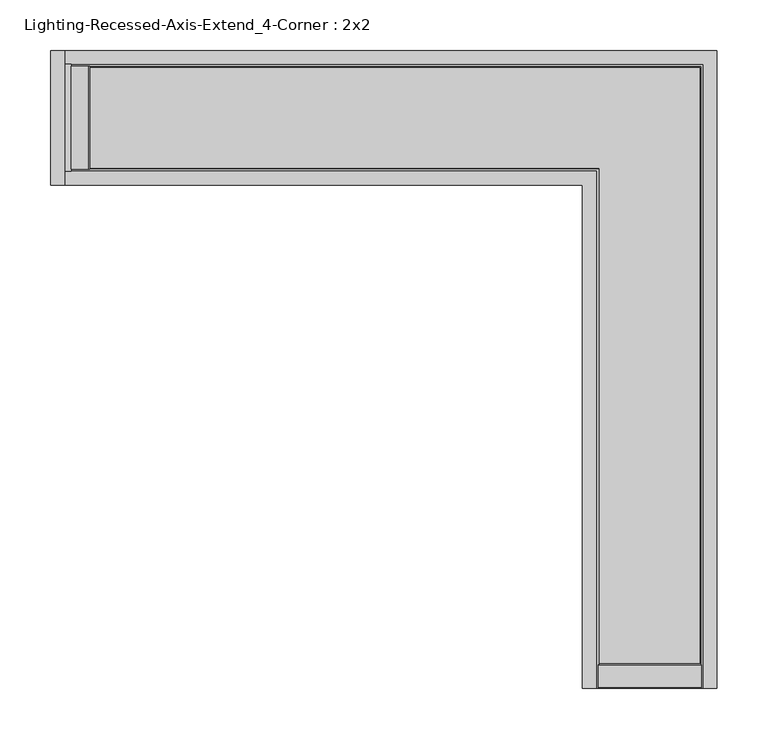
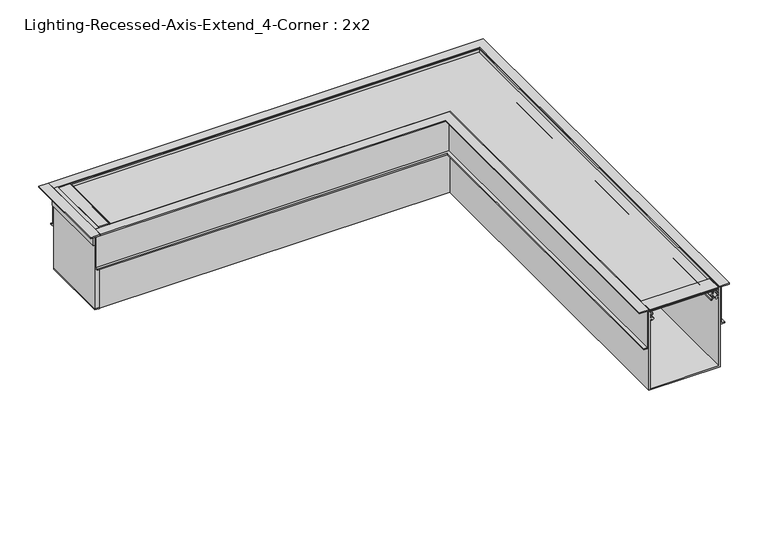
"""IFC4 building model written with IfcOpenShell, lengths in millimetres: light fixture geometry, Lighting-Recessed-Axis-Extend_4-Corner : 2x2."""

from ifc_helpers import new_model, si_unit, frame, origin, place, context, project, spatial, polyline, circle_curve, ellipse_curve, outline, extrude, faceted_brep, source, transform, mapped, element, save
from ifc_brep_helpers import plane_surface, cylinder_surface, revolved_surface, advanced_brep


def lighting_recessed_axis_extend_4_corner_2x2_6065db3e(model_context):
    return source(origin(), model_context, "Body", "SolidModel", [
        faceted_brep([(-578.15099, 52.78501, 0.0), (-578.15099, 52.78501, -23.749), (-580.43699, 52.78501, -23.749), (-580.43699, 52.78501, 0.0), (-580.43699, -52.78501, 0.0), (-580.43699, -52.78501, -23.749), (-578.15099, -52.78501, -23.749), (-578.15099, -52.78501, 0.0), (-578.15099, 66.37401, 0.0), (-578.15099, 66.37401, 1.651), (-578.15099, -66.37401, 1.651), (-578.15099, -66.37401, 0.0), (-591.99399, 66.37401, 0.0), (-591.99399, 66.37401, 1.651), (-591.99399, -66.37401, 1.651), (-591.99399, -66.37401, 0.0)], [[[0, 1, 2, 3]], [[4, 5, 6, 7]], [[1, 0, 8, 9, 10, 11, 7, 6]], [[2, 1, 6, 5]], [[3, 2, 5, 4]], [[8, 12, 13, 9]], [[11, 10, 14, 15]], [[12, 8, 0, 3, 4, 7, 11, 15]], [[13, 12, 15, 14]], [[9, 13, 14, 10]]]),
        extrude(outline(polyline([(0.5492861, -553.48759), (1.651, -554.4121337), (1.651, -571.80099), (-2.9332019, -571.80099), (-2.9332019, -561.13299), (-0.127, -561.13299), (-0.127, -554.28134), (-0.92075, -554.28134), (-0.92075, -553.48759), (0.5492861, -553.48759)])), frame((0.0, -50.75301, 0.0), z_axis=(0.0, 1.0, 0.0), x_axis=(0.0, 0.0, 1.0)), (0.0, 0.0, 1.0), 101.50602),
        extrude(outline(polyline([(-571.80099, 52.78501), (-571.80099, -52.78501), (-578.15099, -52.78501), (-578.15099, 52.78501), (-571.80099, 52.78501)])), frame((0.0, 0.0, -123.1265), z_axis=(0.0, 0.0, 1.0), x_axis=(1.0, 0.0, 0.0)), (0.0, 0.0, 1.0), 124.7775),
        extrude(outline(polyline([(-539.55569, -1.1017139), (-539.55569, -2.57175), (-540.34944, -2.57175), (-540.34944, -1.778), (-546.82009, -1.778), (-546.82009, -4.5842019), (-556.49749, -4.5842019), (-556.49749, -1.778), (-562.96814, -1.778), (-562.96814, -2.57175), (-563.76189, -2.57175), (-563.76189, -1.1017139), (-562.8373463, 0.0), (-540.4802337, 0.0), (-539.55569, -1.1017139)])), frame((-50.75301, 0.0, 0.0), z_axis=(1.0, 0.0, 0.0), x_axis=(0.0, 1.0, 0.0)), (0.0, 0.0, 1.0), 101.50602),
        extrude(outline(polyline([(-1.1017139, -553.48759), (0.0, -554.4121337), (0.0, -571.80099), (-4.5842019, -571.80099), (-4.5842019, -561.13299), (-1.778, -561.13299), (-1.778, -554.28134), (-2.57175, -554.28134), (-2.57175, -553.48759), (-1.1017139, -553.48759)])), frame((0.0, -50.75301, 0.0), z_axis=(0.0, 1.0, 0.0), x_axis=(0.0, 0.0, 1.0)), (0.0, 0.0, 1.0), 101.50602),
        extrude(outline(polyline([(-571.80099, 52.78501), (-571.80099, -52.78501), (-578.15099, -52.78501), (-578.15099, 52.78501), (-571.80099, 52.78501)])), frame((0.0, 0.0, -124.7775), z_axis=(0.0, 0.0, 1.0), x_axis=(1.0, 0.0, 0.0)), (0.0, 0.0, 1.0), 124.7775),
        advanced_brep(
        [(-556.81499, -44.9537362, -4.8895009), (-556.81499, -45.2924281, -11.3521263), (-556.81499, -46.1628914, -17.9580097), (-556.81499, -45.3476056, -19.4557425), (-556.81499, -43.9929166, -20.6551445), (-556.81499, -44.973818, -21.9831631), (-556.81499, -46.5470052, -20.5903092), (-556.81499, -47.8918907, -16.75974), (-556.81499, -46.2564041, -12.7205342), (-556.81499, -46.9204959, -10.8713211), (-556.81499, -46.607002, -4.8895009), (-556.81499, -49.61001, -4.8895009), (-556.81499, -49.61001, -2.9845), (-556.81499, 49.61001, -2.9845), (-556.81499, 49.61001, -4.8895009), (-556.81499, 46.607002, -4.8895009), (-556.81499, 46.9204959, -10.8713211), (-556.81499, 46.2564041, -12.7205342), (-556.81499, 47.8918907, -16.75974), (-556.81499, 46.5470052, -20.5903092), (-556.81499, 44.973818, -21.9831631), (-556.81499, 43.9929166, -20.6551445), (-556.81499, 45.3476056, -19.4557425), (-556.81499, 46.1628914, -17.9580097), (-556.81499, 45.2924281, -11.3521263), (-556.81499, 44.9537362, -4.8895009), (-44.9537362, -556.81499, -4.8895009), (44.9537362, -556.81499, -4.8895009), (45.2924281, -556.81499, -11.3521263), (46.1628914, -556.81499, -17.9580097), (45.3476056, -556.81499, -19.4557425), (43.9929166, -556.81499, -20.6551445), (44.973818, -556.81499, -21.9831631), (46.5470052, -556.81499, -20.5903092), (47.8918907, -556.81499, -16.75974), (46.2564041, -556.81499, -12.7205342), (46.9204959, -556.81499, -10.8713211), (46.607002, -556.81499, -4.8895009), (49.61001, -556.81499, -4.8895009), (49.61001, -556.81499, -2.9845), (-49.61001, -556.81499, -2.9845), (-49.61001, -556.81499, -4.8895009), (-46.607002, -556.81499, -4.8895009), (-46.9204959, -556.81499, -10.8713211), (-46.2564041, -556.81499, -12.7205342), (-47.8918907, -556.81499, -16.75974), (-46.5470052, -556.81499, -20.5903092), (-44.973818, -556.81499, -21.9831631), (-43.9929166, -556.81499, -20.6551445), (-45.3476056, -556.81499, -19.4557425), (-46.1628914, -556.81499, -17.9580097), (-45.2924281, -556.81499, -11.3521263), (-44.9537362, -44.9537362, -4.8895009), (-45.2924281, -45.2924281, -11.3521263), (-46.1628914, -46.1628914, -17.9580097), (-45.3476056, -45.3476056, -19.4557425), (-43.9929166, -43.9929166, -20.6551445), (-44.973818, -44.973818, -21.9831631), (-46.5470052, -46.5470052, -20.5903092), (-47.8918907, -47.8918907, -16.75974), (-46.2564041, -46.2564041, -12.7205342), (-46.9204959, -46.9204959, -10.8713211), (-46.607002, -46.607002, -4.8895009), (-49.61001, -49.61001, -4.8895009), (-49.61001, -49.61001, -2.9845), (49.61001, 49.61001, -2.9845), (44.9537362, 44.9537362, -4.8895009), (49.61001, 49.61001, -4.8895009), (46.607002, 46.607002, -4.8895009), (46.9204959, 46.9204959, -10.8713211), (46.2564041, 46.2564041, -12.7205342), (47.8918907, 47.8918907, -16.75974), (46.5470052, 46.5470052, -20.5903092), (44.973818, 44.973818, -21.9831631), (43.9929166, 43.9929166, -20.6551445), (45.3476056, 45.3476056, -19.4557425), (46.1628914, 46.1628914, -17.9580097), (45.2924281, 45.2924281, -11.3521263)],
        [
            (0, 1),
            (1, 2, circle_curve(frame((-556.81499, -48.03521, -14.351), z_axis=(-1.0, 0.0, 0.0), x_axis=(0.0, 0.6748971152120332, 0.7379118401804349)), 4.064)),
            (2, 3, circle_curve(frame((-556.81499, -42.930354, -17.1691543), z_axis=(1.0, 0.0, 0.0), x_axis=(0.0, -0.9714904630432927, -0.23707863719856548)), 3.3274001)),
            (3, 4, circle_curve(frame((-556.81499, -37.9113277, -12.4214292), z_axis=(1.0, 0.0, 0.0), x_axis=(0.0, -0.7264901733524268, -0.68717685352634)), 10.2362001)),
            (4, 5, circle_curve(frame((-556.81499, -44.4833673, -21.3191538), z_axis=(-1.0, 0.0, 0.0), x_axis=(0.0, 0.5941256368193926, 0.8043722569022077)), 0.8255)),
            (5, 6, circle_curve(frame((-556.81499, -37.9113269, -12.4214283), z_axis=(-1.0, 0.0, 0.0), x_axis=(0.0, -0.594125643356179, -0.8043722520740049)), 11.8872013)),
            (6, 7, circle_curve(frame((-556.81499, -42.930354, -17.1691543), z_axis=(-1.0, 0.0, 0.0), x_axis=(0.0, -0.7264685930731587, -0.6871996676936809)), 4.9784001)),
            (7, 8, circle_curve(frame((-556.81499, -48.03521, -14.351), z_axis=(1.0, 0.0, 0.0), x_axis=(0.0, 0.05939464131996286, -0.9982345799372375)), 2.413)),
            (8, 9, circle_curve(frame((-556.81499, -44.3839769, -11.0042544), z_axis=(-1.0, 0.0, 0.0), x_axis=(0.0, -0.7371760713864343, -0.675700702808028)), 2.54)),
            (9, 10),
            (10, 11),
            (11, 12),
            (12, 13),
            (13, 14),
            (14, 15),
            (15, 16),
            (16, 17, circle_curve(frame((-556.81499, 44.3839769, -11.0042544), z_axis=(-1.0, 0.0, 0.0), x_axis=(0.0, 0.7371760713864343, -0.675700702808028)), 2.54)),
            (17, 18, circle_curve(frame((-556.81499, 48.03521, -14.351), z_axis=(1.0, 0.0, 0.0), x_axis=(0.0, -0.05939464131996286, -0.9982345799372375)), 2.413)),
            (18, 19, circle_curve(frame((-556.81499, 42.930354, -17.1691543), z_axis=(-1.0, 0.0, 0.0), x_axis=(0.0, 0.7264685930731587, -0.6871996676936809)), 4.9784001)),
            (19, 20, circle_curve(frame((-556.81499, 37.9113269, -12.4214283), z_axis=(-1.0, 0.0, 0.0), x_axis=(0.0, 0.594125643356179, -0.8043722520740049)), 11.8872013)),
            (20, 21, circle_curve(frame((-556.81499, 44.4833673, -21.3191538), z_axis=(-1.0, 0.0, 0.0), x_axis=(0.0, -0.5941256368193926, 0.8043722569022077)), 0.8255)),
            (21, 22, circle_curve(frame((-556.81499, 37.9113277, -12.4214292), z_axis=(1.0, 0.0, 0.0), x_axis=(0.0, 0.7264901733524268, -0.68717685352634)), 10.2362001)),
            (22, 23, circle_curve(frame((-556.81499, 42.930354, -17.1691543), z_axis=(1.0, 0.0, 0.0), x_axis=(0.0, 0.9714904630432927, -0.23707863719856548)), 3.3274001)),
            (23, 24, circle_curve(frame((-556.81499, 48.03521, -14.351), z_axis=(-1.0, 0.0, 0.0), x_axis=(0.0, -0.6748971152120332, 0.7379118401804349)), 4.064)),
            (24, 25),
            (25, 0),
            (26, 27),
            (27, 28),
            (28, 29, circle_curve(frame((48.03521, -556.81499, -14.351), z_axis=(0.0, -1.0, 0.0), x_axis=(-0.6748971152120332, 0.0, 0.7379118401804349)), 4.064)),
            (29, 30, circle_curve(frame((42.930354, -556.81499, -17.1691543), z_axis=(0.0, 1.0, 0.0), x_axis=(0.9714904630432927, 0.0, -0.23707863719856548)), 3.3274001)),
            (30, 31, circle_curve(frame((37.9113277, -556.81499, -12.4214292), z_axis=(0.0, 1.0, 0.0), x_axis=(0.7264901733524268, 0.0, -0.68717685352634)), 10.2362001)),
            (31, 32, circle_curve(frame((44.4833673, -556.81499, -21.3191538), z_axis=(0.0, -1.0, 0.0), x_axis=(-0.5941256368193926, 0.0, 0.8043722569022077)), 0.8255)),
            (32, 33, circle_curve(frame((37.9113269, -556.81499, -12.4214283), z_axis=(0.0, -1.0, 0.0), x_axis=(0.594125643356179, 0.0, -0.8043722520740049)), 11.8872013)),
            (33, 34, circle_curve(frame((42.930354, -556.81499, -17.1691543), z_axis=(0.0, -1.0, 0.0), x_axis=(0.7264685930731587, 0.0, -0.6871996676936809)), 4.9784001)),
            (34, 35, circle_curve(frame((48.03521, -556.81499, -14.351), z_axis=(0.0, 1.0, 0.0), x_axis=(-0.05939464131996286, 0.0, -0.9982345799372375)), 2.413)),
            (35, 36, circle_curve(frame((44.3839769, -556.81499, -11.0042544), z_axis=(0.0, -1.0, 0.0), x_axis=(0.7371760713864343, 0.0, -0.675700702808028)), 2.54)),
            (36, 37),
            (37, 38),
            (38, 39),
            (39, 40),
            (40, 41),
            (41, 42),
            (42, 43),
            (43, 44, circle_curve(frame((-44.3839769, -556.81499, -11.0042544), z_axis=(0.0, -1.0, 0.0), x_axis=(-0.7371760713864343, 0.0, -0.675700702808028)), 2.54)),
            (44, 45, circle_curve(frame((-48.03521, -556.81499, -14.351), z_axis=(0.0, 1.0, 0.0), x_axis=(0.05939464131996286, 0.0, -0.9982345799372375)), 2.413)),
            (45, 46, circle_curve(frame((-42.930354, -556.81499, -17.1691543), z_axis=(0.0, -1.0, 0.0), x_axis=(-0.7264685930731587, 0.0, -0.6871996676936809)), 4.9784001)),
            (46, 47, circle_curve(frame((-37.9113269, -556.81499, -12.4214283), z_axis=(0.0, -1.0, 0.0), x_axis=(-0.594125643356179, 0.0, -0.8043722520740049)), 11.8872013)),
            (47, 48, circle_curve(frame((-44.4833673, -556.81499, -21.3191538), z_axis=(0.0, -1.0, 0.0), x_axis=(0.5941256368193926, 0.0, 0.8043722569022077)), 0.8255)),
            (48, 49, circle_curve(frame((-37.9113277, -556.81499, -12.4214292), z_axis=(0.0, 1.0, 0.0), x_axis=(-0.7264901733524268, 0.0, -0.68717685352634)), 10.2362001)),
            (49, 50, circle_curve(frame((-42.930354, -556.81499, -17.1691543), z_axis=(0.0, 1.0, 0.0), x_axis=(-0.9714904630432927, 0.0, -0.23707863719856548)), 3.3274001)),
            (50, 51, circle_curve(frame((-48.03521, -556.81499, -14.351), z_axis=(0.0, -1.0, 0.0), x_axis=(0.6748971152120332, 0.0, 0.7379118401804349)), 4.064)),
            (51, 26),
            (0, 52),
            (52, 53),
            (53, 1),
            (53, 54, ellipse_curve(frame((-48.03521, -48.03521, -14.351), z_axis=(-0.7071067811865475, 0.7071067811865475, 0.0), x_axis=(-0.7071067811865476, -0.7071067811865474, 0.0)), 5.7473639, 4.064)),
            (54, 2),
            (54, 55, ellipse_curve(frame((-42.930354, -42.930354, -17.1691543), z_axis=(0.7071067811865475, -0.7071067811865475, 0.0), x_axis=(0.7071067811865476, 0.7071067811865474, 0.0)), 4.7056543, 3.3274001)),
            (55, 3),
            (55, 56, ellipse_curve(frame((-37.9113277, -37.9113277, -12.4214292), z_axis=(0.7071067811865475, -0.7071067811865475, 0.0), x_axis=(0.7071067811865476, 0.7071067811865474, 0.0)), 14.476173, 10.2362001)),
            (56, 4),
            (56, 57, ellipse_curve(frame((-44.4833673, -44.4833673, -21.3191538), z_axis=(-0.7071067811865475, 0.7071067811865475, 0.0), x_axis=(-0.7071067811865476, -0.7071067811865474, 0.0)), 1.1674333, 0.8255)),
            (57, 5),
            (57, 58, ellipse_curve(frame((-37.9113269, -37.9113269, -12.4214283), z_axis=(-0.7071067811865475, 0.7071067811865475, 0.0), x_axis=(-0.7071067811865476, -0.7071067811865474, 0.0)), 16.8110412, 11.8872013)),
            (58, 6),
            (58, 59, ellipse_curve(frame((-42.930354, -42.930354, -17.1691543), z_axis=(-0.7071067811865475, 0.7071067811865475, 0.0), x_axis=(-0.7071067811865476, -0.7071067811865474, 0.0)), 7.0405209, 4.9784001)),
            (59, 7),
            (59, 60, ellipse_curve(frame((-48.03521, -48.03521, -14.351), z_axis=(0.7071067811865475, -0.7071067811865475, 0.0), x_axis=(0.7071067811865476, 0.7071067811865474, 0.0)), 3.4124973, 2.413)),
            (60, 8),
            (60, 61, ellipse_curve(frame((-44.3839769, -44.3839769, -11.0042544), z_axis=(-0.7071067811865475, 0.7071067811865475, 0.0), x_axis=(-0.7071067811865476, -0.7071067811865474, 0.0)), 3.5921024, 2.54)),
            (61, 9),
            (61, 62),
            (62, 10),
            (62, 42),
            (41, 63),
            (63, 11),
            (63, 64),
            (64, 12),
            (64, 40),
            (39, 65),
            (65, 13),
            (25, 66),
            (66, 27),
            (26, 52),
            (65, 67),
            (67, 14),
            (67, 38),
            (37, 68),
            (68, 15),
            (68, 69),
            (69, 16),
            (69, 70, ellipse_curve(frame((44.3839769, 44.3839769, -11.0042544), z_axis=(-0.7071067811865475, 0.7071067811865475, 0.0), x_axis=(-0.7071067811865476, -0.7071067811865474, 0.0)), 3.5921024, 2.54)),
            (70, 17),
            (70, 71, ellipse_curve(frame((48.03521, 48.03521, -14.351), z_axis=(0.7071067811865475, -0.7071067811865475, 0.0), x_axis=(0.7071067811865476, 0.7071067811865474, 0.0)), 3.4124973, 2.413)),
            (71, 18),
            (71, 72, ellipse_curve(frame((42.930354, 42.930354, -17.1691543), z_axis=(-0.7071067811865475, 0.7071067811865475, 0.0), x_axis=(-0.7071067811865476, -0.7071067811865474, 0.0)), 7.0405209, 4.9784001)),
            (72, 19),
            (72, 73, ellipse_curve(frame((37.9113269, 37.9113269, -12.4214283), z_axis=(-0.7071067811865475, 0.7071067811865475, 0.0), x_axis=(-0.7071067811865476, -0.7071067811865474, 0.0)), 16.8110412, 11.8872013)),
            (73, 20),
            (73, 74, ellipse_curve(frame((44.4833673, 44.4833673, -21.3191538), z_axis=(-0.7071067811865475, 0.7071067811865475, 0.0), x_axis=(-0.7071067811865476, -0.7071067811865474, 0.0)), 1.1674333, 0.8255)),
            (74, 21),
            (74, 75, ellipse_curve(frame((37.9113277, 37.9113277, -12.4214292), z_axis=(0.7071067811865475, -0.7071067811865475, 0.0), x_axis=(0.7071067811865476, 0.7071067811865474, 0.0)), 14.476173, 10.2362001)),
            (75, 22),
            (75, 76, ellipse_curve(frame((42.930354, 42.930354, -17.1691543), z_axis=(0.7071067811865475, -0.7071067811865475, 0.0), x_axis=(0.7071067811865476, 0.7071067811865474, 0.0)), 4.7056543, 3.3274001)),
            (76, 23),
            (76, 77, ellipse_curve(frame((48.03521, 48.03521, -14.351), z_axis=(-0.7071067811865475, 0.7071067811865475, 0.0), x_axis=(-0.7071067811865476, -0.7071067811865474, 0.0)), 5.7473639, 4.064)),
            (77, 24),
            (77, 66),
            (51, 53),
            (50, 54),
            (49, 55),
            (48, 56),
            (47, 57),
            (46, 58),
            (45, 59),
            (44, 60),
            (43, 61),
            (36, 69),
            (35, 70),
            (34, 71),
            (33, 72),
            (32, 73),
            (31, 74),
            (30, 75),
            (29, 76),
            (28, 77),
        ],
        [
            plane_surface(frame((-556.81499, 0.0, -124.7775), z_axis=(-1.0, 0.0, 0.0), x_axis=(0.0, 0.0, 1.0))),
            plane_surface(frame((0.0, -556.81499, -124.7775), z_axis=(0.0, -1.0, 0.0), x_axis=(0.0, 0.0, 1.0))),
            plane_surface(frame((-556.81499, -44.9537362, -4.8895009), z_axis=(0.0, 0.9986295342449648, -0.05233596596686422), x_axis=(1.0, 0.0, 0.0))),
            cylinder_surface(frame((-556.81499, -48.03521, -14.351), z_axis=(-1.0, 0.0, 0.0), x_axis=(0.0, 0.6748971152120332, 0.7379118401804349)), 4.064),
            revolved_surface(polyline([(-39.6029539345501, -46.1628914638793, -17.95800978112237), (-556.81499, -46.1628914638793, -17.95800978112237)]), (-556.81499, -42.930354, -17.1691543), (1.0000000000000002, 0.0, 0.0)),
            revolved_surface(polyline([(-27.67512760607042, -45.34782648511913, -19.455508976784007), (-556.81499, -45.34782648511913, -19.455508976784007)]), (-556.81499, -37.9113277, -12.4214292), (1.0, 0.0, 0.0)),
            cylinder_surface(frame((-556.81499, -44.4833673, -21.3191538), z_axis=(-1.0, 0.0, 0.0), x_axis=(0.0, 0.5941256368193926, 0.8043722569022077)), 0.8255),
            cylinder_surface(frame((-556.81499, -37.9113269, -12.4214283), z_axis=(-1.0, 0.0, 0.0), x_axis=(0.0, -0.594125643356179, -0.8043722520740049)), 11.8872013),
            cylinder_surface(frame((-556.81499, -42.930354, -17.1691543), z_axis=(-1.0, 0.0, 0.0), x_axis=(0.0, -0.7264685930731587, -0.6871996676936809)), 4.9784001),
            revolved_surface(polyline([(-45.62221001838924, -47.89189073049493, -16.759740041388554), (-556.81499, -47.89189073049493, -16.759740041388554)]), (-556.81499, -48.03521, -14.351), (1.0, 0.0, 0.0)),
            cylinder_surface(frame((-556.81499, -44.3839769, -11.0042544), z_axis=(-1.0, 0.0, 0.0), x_axis=(0.0, -0.7371760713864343, -0.675700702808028)), 2.54),
            plane_surface(frame((-556.81499, -46.9204959, -10.8713211), z_axis=(0.0, -0.9986295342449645, 0.05233596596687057), x_axis=(1.0, 0.0, 0.0))),
            plane_surface(frame((-556.81499, -46.607002, -4.8895009), z_axis=(0.0, 0.0, -1.0), x_axis=(1.0, 0.0, 0.0))),
            plane_surface(frame((-556.81499, -49.61001, -4.8895009), z_axis=(0.0, -1.0, 0.0), x_axis=(1.0, 0.0, 0.0))),
            plane_surface(frame((-556.81499, -49.61001, -2.9845), z_axis=(0.0, 0.0, 1.0), x_axis=(1.0, 0.0, 0.0))),
            plane_surface(frame((-556.81499, 44.9537362, -4.8895009), z_axis=(0.0, 0.0, -1.0), x_axis=(1.0, 0.0, 0.0))),
            plane_surface(frame((-556.81499, 49.61001, -2.9845), z_axis=(0.0, 1.0, 0.0), x_axis=(1.0, 0.0, 0.0))),
            plane_surface(frame((-556.81499, 49.61001, -4.8895009), z_axis=(0.0, 0.0, -1.0), x_axis=(1.0, 0.0, 0.0))),
            plane_surface(frame((-556.81499, 46.607002, -4.8895009), z_axis=(0.0, 0.9986295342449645, 0.05233596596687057), x_axis=(1.0, 0.0, 0.0))),
            cylinder_surface(frame((-556.81499, 44.3839769, -11.0042544), z_axis=(-1.0, 0.0, 0.0), x_axis=(0.0, 0.7371760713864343, -0.675700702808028)), 2.54),
            revolved_surface(polyline([(50.44820998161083, 47.89189073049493, -16.759740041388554), (-556.81499, 47.89189073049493, -16.759740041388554)]), (-556.81499, 48.03521, -14.351), (1.0, 0.0, 0.0)),
            cylinder_surface(frame((-556.81499, 42.930354, -17.1691543), z_axis=(-1.0, 0.0, 0.0), x_axis=(0.0, 0.7264685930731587, -0.6871996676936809)), 4.9784001),
            cylinder_surface(frame((-556.81499, 37.9113269, -12.4214283), z_axis=(-1.0, 0.0, 0.0), x_axis=(0.0, 0.594125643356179, -0.8043722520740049)), 11.8872013),
            cylinder_surface(frame((-556.81499, 44.4833673, -21.3191538), z_axis=(-1.0, 0.0, 0.0), x_axis=(0.0, -0.5941256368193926, 0.8043722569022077)), 0.8255),
            revolved_surface(polyline([(48.14752779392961, 45.34782648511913, -19.455508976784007), (-556.81499, 45.34782648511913, -19.455508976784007)]), (-556.81499, 37.9113277, -12.4214292), (1.0, 0.0, 0.0)),
            revolved_surface(polyline([(46.25775406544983, 46.1628914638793, -17.95800978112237), (-556.81499, 46.1628914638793, -17.95800978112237)]), (-556.81499, 42.930354, -17.1691543), (1.0000000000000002, 0.0, 0.0)),
            cylinder_surface(frame((-556.81499, 48.03521, -14.351), z_axis=(-1.0, 0.0, 0.0), x_axis=(0.0, -0.6748971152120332, 0.7379118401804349)), 4.064),
            plane_surface(frame((-556.81499, 45.2924281, -11.3521263), z_axis=(0.0, -0.9986295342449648, -0.05233596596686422), x_axis=(1.0, 0.0, 0.0))),
            plane_surface(frame((-44.9537362, -44.9537362, -4.8895009), z_axis=(0.9986295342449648, 0.0, -0.05233596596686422), x_axis=(0.0, -1.0, 0.0))),
            cylinder_surface(frame((-48.03521, 0.0, -14.351), z_axis=(0.0, 1.0, 0.0), x_axis=(0.6748971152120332, 0.0, 0.7379118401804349)), 4.064),
            revolved_surface(polyline([(-46.1628914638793, -556.8149900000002, -17.95800978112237), (-46.1628914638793, -39.60295393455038, -17.95800978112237)]), (-42.930354, 0.0, -17.1691543), (0.0, -1.0000000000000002, 0.0)),
            revolved_surface(polyline([(-45.34782648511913, -556.81499, -19.455508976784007), (-45.34782648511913, -27.675127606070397, -19.455508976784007)]), (-37.9113277, 0.0, -12.4214292), (0.0, -1.0, 0.0)),
            cylinder_surface(frame((-44.4833673, 0.0, -21.3191538), z_axis=(0.0, 1.0, 0.0), x_axis=(0.5941256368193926, 0.0, 0.8043722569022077)), 0.8255),
            cylinder_surface(frame((-37.9113269, 0.0, -12.4214283), z_axis=(0.0, 1.0, 0.0), x_axis=(-0.594125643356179, 0.0, -0.8043722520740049)), 11.8872013),
            cylinder_surface(frame((-42.930354, 0.0, -17.1691543), z_axis=(0.0, 1.0, 0.0), x_axis=(-0.7264685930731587, 0.0, -0.6871996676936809)), 4.9784001),
            revolved_surface(polyline([(-47.89189073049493, -556.81499, -16.759740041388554), (-47.89189073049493, -45.62221001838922, -16.759740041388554)]), (-48.03521, 0.0, -14.351), (0.0, -1.0, 0.0)),
            cylinder_surface(frame((-44.3839769, 0.0, -11.0042544), z_axis=(0.0, 1.0, 0.0), x_axis=(-0.7371760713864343, 0.0, -0.675700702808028)), 2.54),
            plane_surface(frame((-46.9204959, -46.9204959, -10.8713211), z_axis=(-0.9986295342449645, 0.0, 0.05233596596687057), x_axis=(0.0, -1.0, 0.0))),
            plane_surface(frame((-49.61001, -49.61001, -4.8895009), z_axis=(-1.0, 0.0, 0.0), x_axis=(0.0, -1.0, 0.0))),
            plane_surface(frame((49.61001, 49.61001, -2.9845), z_axis=(1.0, 0.0, 0.0), x_axis=(0.0, -1.0, 0.0))),
            plane_surface(frame((46.607002, 46.607002, -4.8895009), z_axis=(0.9986295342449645, 0.0, 0.05233596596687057), x_axis=(0.0, -1.0, 0.0))),
            cylinder_surface(frame((44.3839769, 0.0, -11.0042544), z_axis=(0.0, 1.0, 0.0), x_axis=(0.7371760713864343, 0.0, -0.675700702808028)), 2.54),
            revolved_surface(polyline([(47.89189073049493, -556.81499, -16.759740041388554), (47.89189073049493, 50.44820998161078, -16.759740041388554)]), (48.03521, 0.0, -14.351), (0.0, -1.0, 0.0)),
            cylinder_surface(frame((42.930354, 0.0, -17.1691543), z_axis=(0.0, 1.0, 0.0), x_axis=(0.7264685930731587, 0.0, -0.6871996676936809)), 4.9784001),
            cylinder_surface(frame((37.9113269, 0.0, -12.4214283), z_axis=(0.0, 1.0, 0.0), x_axis=(0.594125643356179, 0.0, -0.8043722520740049)), 11.8872013),
            cylinder_surface(frame((44.4833673, 0.0, -21.3191538), z_axis=(0.0, 1.0, 0.0), x_axis=(-0.5941256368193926, 0.0, 0.8043722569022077)), 0.8255),
            revolved_surface(polyline([(45.34782648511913, -556.81499, -19.455508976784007), (45.34782648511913, 48.147527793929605, -19.455508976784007)]), (37.9113277, 0.0, -12.4214292), (0.0, -1.0, 0.0)),
            revolved_surface(polyline([(46.1628914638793, -556.8149900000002, -17.95800978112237), (46.1628914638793, 46.25775406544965, -17.95800978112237)]), (42.930354, 0.0, -17.1691543), (0.0, -1.0000000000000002, 0.0)),
            cylinder_surface(frame((48.03521, 0.0, -14.351), z_axis=(0.0, 1.0, 0.0), x_axis=(-0.6748971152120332, 0.0, 0.7379118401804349)), 4.064),
            plane_surface(frame((45.2924281, 45.2924281, -11.3521263), z_axis=(-0.9986295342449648, 0.0, -0.05233596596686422), x_axis=(0.0, -1.0, 0.0))),
        ],
        [
            (0, [[1, 2, 3, 4, 5, 6, 7, 8, 9, 10, 11, 12, 13, 14, 15, 16, 17, 18, 19, 20, 21, 22, 23, 24, 25, 26]]),
            (1, [[27, 28, 29, 30, 31, 32, 33, 34, 35, 36, 37, 38, 39, 40, 41, 42, 43, 44, 45, 46, 47, 48, 49, 50, 51, 52]]),
            (2, [[-1, 53, 54, 55]]),
            (3, [[-2, -55, 56, 57]]),
            (4, [[-3, -57, 58, 59]]),
            (5, [[-4, -59, 60, 61]]),
            (6, [[-5, -61, 62, 63]]),
            (7, [[-6, -63, 64, 65]]),
            (8, [[-7, -65, 66, 67]]),
            (9, [[-8, -67, 68, 69]]),
            (10, [[-9, -69, 70, 71]]),
            (11, [[-10, -71, 72, 73]]),
            (12, [[-11, -73, 74, -42, 75, 76]]),
            (13, [[-12, -76, 77, 78]]),
            (14, [[-13, -78, 79, -40, 80, 81]]),
            (15, [[-26, 82, 83, -27, 84, -53]]),
            (16, [[-14, -81, 85, 86]]),
            (17, [[-15, -86, 87, -38, 88, 89]]),
            (18, [[-16, -89, 90, 91]]),
            (19, [[-17, -91, 92, 93]]),
            (20, [[-18, -93, 94, 95]]),
            (21, [[-19, -95, 96, 97]]),
            (22, [[-20, -97, 98, 99]]),
            (23, [[-21, -99, 100, 101]]),
            (24, [[-22, -101, 102, 103]]),
            (25, [[-23, -103, 104, 105]]),
            (26, [[-24, -105, 106, 107]]),
            (27, [[-25, -107, 108, -82]]),
            (28, [[-54, -84, -52, 109]]),
            (29, [[-56, -109, -51, 110]]),
            (30, [[-58, -110, -50, 111]]),
            (31, [[-60, -111, -49, 112]]),
            (32, [[-62, -112, -48, 113]]),
            (33, [[-64, -113, -47, 114]]),
            (34, [[-66, -114, -46, 115]]),
            (35, [[-68, -115, -45, 116]]),
            (36, [[-70, -116, -44, 117]]),
            (37, [[-72, -117, -43, -74]]),
            (38, [[-77, -75, -41, -79]]),
            (39, [[-85, -80, -39, -87]]),
            (40, [[-90, -88, -37, 118]]),
            (41, [[-92, -118, -36, 119]]),
            (42, [[-94, -119, -35, 120]]),
            (43, [[-96, -120, -34, 121]]),
            (44, [[-98, -121, -33, 122]]),
            (45, [[-100, -122, -32, 123]]),
            (46, [[-102, -123, -31, 124]]),
            (47, [[-104, -124, -30, 125]]),
            (48, [[-106, -125, -29, 126]]),
            (49, [[-108, -126, -28, -83]]),
        ],
    ),
        advanced_brep(
        [(-571.4653619, -50.75301, -14.9098), (-571.4653619, -50.75301, -122.7455), (-571.4653619, 50.75301, -122.7455), (-571.4653619, 50.75301, -14.9098), (-571.4653619, 48.9135897, -14.9098), (-571.4653619, 46.6540646, -16.2143374), (-571.4653619, 45.4706616, -13.9591318), (-571.4653619, 48.84801, -11.1252), (-571.4653619, 48.84801, -12.8778), (-571.4653619, 50.75301, -12.8778), (-571.4653619, 50.75301, -6.35), (-571.4653619, 48.84801, -6.35), (-571.4653619, 48.84801, -7.874), (-571.4653619, 47.19701, -7.7874748), (-571.4653619, 47.19701, -5.08), (-571.4653619, 50.75301, -5.08), (-571.4653619, 50.75301, 0.0), (-571.4653619, 52.78501, 0.0), (-571.4653619, 52.78501, -124.7775), (-571.4653619, -52.78501, -124.7775), (-571.4653619, -52.78501, 0.0), (-571.4653619, -50.75301, 0.0), (-571.4653619, -50.75301, -5.08), (-571.4653619, -47.19701, -5.08), (-571.4653619, -47.19701, -7.7874748), (-571.4653619, -48.84801, -7.874), (-571.4653619, -48.84801, -6.35), (-571.4653619, -50.75301, -6.35), (-571.4653619, -50.75301, -12.8778), (-571.4653619, -48.84801, -12.8778), (-571.4653619, -48.84801, -11.1252), (-571.4653619, -45.4706616, -13.9591318), (-571.4653619, -46.6540646, -16.2143374), (-571.4653619, -48.9135897, -14.9098), (-50.4173819, -563.76189, -14.9098), (-48.5779616, -563.76189, -14.9098), (-46.3184365, -563.76189, -16.2143374), (-45.1350335, -563.76189, -13.9591318), (-48.5123819, -563.76189, -11.1252), (-48.5123819, -563.76189, -12.8778), (-50.4173819, -563.76189, -12.8778), (-50.4173819, -563.76189, -6.35), (-48.5123819, -563.76189, -6.35), (-48.5123819, -563.76189, -7.874), (-46.8613819, -563.76189, -7.7874748), (-46.8613819, -563.76189, -5.08), (-50.4173819, -563.76189, -5.08), (-50.4173819, -563.76189, 0.0), (-52.4493819, -563.76189, 0.0), (-52.4493819, -563.76189, -124.7775), (53.1206381, -563.76189, -124.7775), (53.1206381, -563.76189, 0.0), (51.0886381, -563.76189, 0.0), (51.0886381, -563.76189, -5.08), (47.5326381, -563.76189, -5.08), (47.5326381, -563.76189, -7.7874748), (49.1836381, -563.76189, -7.874), (49.1836381, -563.76189, -6.35), (51.0886381, -563.76189, -6.35), (51.0886381, -563.76189, -12.8778), (49.1836381, -563.76189, -12.8778), (49.1836381, -563.76189, -11.1252), (45.8062898, -563.76189, -13.9591318), (46.9896928, -563.76189, -16.2143374), (49.2492179, -563.76189, -14.9098), (51.0886381, -563.76189, -14.9098), (51.0886381, -563.76189, -122.7455), (-50.4173819, -563.76189, -122.7455), (-50.4173819, -50.75301, -14.9098), (-50.4173819, -50.75301, -122.7455), (51.0886381, 50.75301, -122.7455), (53.1206381, 52.78501, -124.7775), (-52.4493819, -52.78501, -124.7775), (-52.4493819, -52.78501, 0.0), (-50.4173819, -50.75301, 0.0), (-50.4173819, -50.75301, -5.08), (-46.8613819, -47.19701, -5.08), (-46.8613819, -47.19701, -7.7874748), (-48.5123819, -48.84801, -7.874), (-48.5123819, -48.84801, -6.35), (-50.4173819, -50.75301, -6.35), (-50.4173819, -50.75301, -12.8778), (-48.5123819, -48.84801, -12.8778), (-48.5123819, -48.84801, -11.1252), (-45.1350335, -45.4706616, -13.9591318), (-46.3184365, -46.6540646, -16.2143374), (-48.5779616, -48.9135897, -14.9098), (51.0886381, 50.75301, -14.9098), (49.2492179, 48.9135897, -14.9098), (46.9896928, 46.6540646, -16.2143374), (45.8062898, 45.4706616, -13.9591318), (49.1836381, 48.84801, -11.1252), (49.1836381, 48.84801, -12.8778), (51.0886381, 50.75301, -12.8778), (51.0886381, 50.75301, -6.35), (49.1836381, 48.84801, -6.35), (49.1836381, 48.84801, -7.874), (47.5326381, 47.19701, -7.7874748), (47.5326381, 47.19701, -5.08), (51.0886381, 50.75301, -5.08), (51.0886381, 50.75301, 0.0), (53.1206381, 52.78501, 0.0)],
        [
            (0, 1),
            (1, 2),
            (2, 3),
            (3, 4),
            (4, 5, circle_curve(frame((-571.4653619, 47.4072397, -14.9098), z_axis=(-1.0, 0.0, 0.0), x_axis=(0.0, 1.0, 0.0)), 1.5063501)),
            (5, 6, circle_curve(frame((-571.4653619, 47.8452221, -14.1511921), z_axis=(-1.0, 0.0, 0.0), x_axis=(0.0, -0.5000000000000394, -0.866025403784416)), 2.382315)),
            (6, 7),
            (7, 8),
            (8, 9),
            (9, 10),
            (10, 11),
            (11, 12),
            (12, 13),
            (13, 14),
            (14, 15),
            (15, 16),
            (16, 17),
            (17, 18),
            (18, 19),
            (19, 20),
            (20, 21),
            (21, 22),
            (22, 23),
            (23, 24),
            (24, 25),
            (25, 26),
            (26, 27),
            (27, 28),
            (28, 29),
            (29, 30),
            (30, 31),
            (31, 32, circle_curve(frame((-571.4653619, -47.8452221, -14.1511921), z_axis=(-1.0, 0.0, 0.0), x_axis=(0.0, 0.5000000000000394, -0.866025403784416)), 2.382315)),
            (32, 33, circle_curve(frame((-571.4653619, -47.4072397, -14.9098), z_axis=(-1.0, 0.0, 0.0), x_axis=(0.0, -1.0, 0.0)), 1.5063501)),
            (33, 0),
            (34, 35),
            (35, 36, circle_curve(frame((-47.0716115, -563.76189, -14.9098), z_axis=(0.0, -1.0, 0.0), x_axis=(-1.0, 0.0, 0.0)), 1.5063501)),
            (36, 37, circle_curve(frame((-47.509594, -563.76189, -14.1511921), z_axis=(0.0, -1.0, 0.0), x_axis=(0.5000000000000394, 0.0, -0.866025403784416)), 2.382315)),
            (37, 38),
            (38, 39),
            (39, 40),
            (40, 41),
            (41, 42),
            (42, 43),
            (43, 44),
            (44, 45),
            (45, 46),
            (46, 47),
            (47, 48),
            (48, 49),
            (49, 50),
            (50, 51),
            (51, 52),
            (52, 53),
            (53, 54),
            (54, 55),
            (55, 56),
            (56, 57),
            (57, 58),
            (58, 59),
            (59, 60),
            (60, 61),
            (61, 62),
            (62, 63, circle_curve(frame((48.1808503, -563.76189, -14.1511921), z_axis=(0.0, -1.0, 0.0), x_axis=(-0.5000000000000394, 0.0, -0.866025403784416)), 2.382315)),
            (63, 64, circle_curve(frame((47.7428678, -563.76189, -14.9098), z_axis=(0.0, -1.0, 0.0), x_axis=(1.0, 0.0, 0.0)), 1.5063501)),
            (64, 65),
            (65, 66),
            (66, 67),
            (67, 34),
            (0, 68),
            (68, 69),
            (69, 1),
            (69, 67),
            (66, 70),
            (70, 2),
            (18, 71),
            (71, 50),
            (49, 72),
            (72, 19),
            (72, 73),
            (73, 20),
            (73, 48),
            (47, 74),
            (74, 21),
            (74, 75),
            (75, 22),
            (75, 46),
            (45, 76),
            (76, 23),
            (76, 77),
            (77, 24),
            (77, 78),
            (78, 25),
            (78, 79),
            (79, 26),
            (79, 42),
            (41, 80),
            (80, 27),
            (80, 81),
            (81, 28),
            (81, 40),
            (39, 82),
            (82, 29),
            (82, 83),
            (83, 30),
            (83, 84),
            (84, 31),
            (84, 85, ellipse_curve(frame((-47.509594, -47.8452221, -14.1511921), z_axis=(-0.7071067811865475, 0.7071067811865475, 0.0), x_axis=(-0.7071067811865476, -0.7071067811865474, 0.0)), 3.3691022, 2.382315)),
            (85, 32),
            (85, 86, ellipse_curve(frame((-47.0716115, -47.4072397, -14.9098), z_axis=(-0.7071067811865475, 0.7071067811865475, 0.0), x_axis=(-0.7071067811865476, -0.7071067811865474, 0.0)), 2.1303007, 1.5063501)),
            (86, 33),
            (86, 35),
            (34, 68),
            (70, 87),
            (87, 3),
            (87, 65),
            (64, 88),
            (88, 4),
            (88, 89, ellipse_curve(frame((47.7428678, 47.4072397, -14.9098), z_axis=(-0.7071067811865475, 0.7071067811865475, 0.0), x_axis=(-0.7071067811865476, -0.7071067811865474, 0.0)), 2.1303007, 1.5063501)),
            (89, 5),
            (89, 90, ellipse_curve(frame((48.1808503, 47.8452221, -14.1511921), z_axis=(-0.7071067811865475, 0.7071067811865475, 0.0), x_axis=(-0.7071067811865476, -0.7071067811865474, 0.0)), 3.3691022, 2.382315)),
            (90, 6),
            (90, 91),
            (91, 7),
            (91, 92),
            (92, 8),
            (92, 60),
            (59, 93),
            (93, 9),
            (93, 94),
            (94, 10),
            (94, 58),
            (57, 95),
            (95, 11),
            (95, 96),
            (96, 12),
            (96, 97),
            (97, 13),
            (97, 98),
            (98, 14),
            (98, 54),
            (53, 99),
            (99, 15),
            (99, 100),
            (100, 16),
            (100, 52),
            (51, 101),
            (101, 17),
            (101, 71),
            (63, 89),
            (62, 90),
            (61, 91),
            (56, 96),
            (55, 97),
            (44, 77),
            (43, 78),
            (38, 83),
            (37, 84),
            (36, 85),
        ],
        [
            plane_surface(frame((-571.4653619, 0.0, -124.7775), z_axis=(-1.0, 0.0, 0.0), x_axis=(0.0, 0.0, 1.0))),
            plane_surface(frame((0.3356281, -563.76189, -124.7775), z_axis=(0.0, -1.0, 0.0), x_axis=(0.0, 0.0, 1.0))),
            plane_surface(frame((-571.4653619, -50.75301, -14.9098), z_axis=(0.0, 1.0, 0.0), x_axis=(1.0, 0.0, 0.0))),
            plane_surface(frame((-571.4653619, -50.75301, -122.7455), z_axis=(0.0, 0.0, 1.0), x_axis=(1.0, 0.0, 0.0))),
            plane_surface(frame((-571.4653619, 52.78501, -124.7775), z_axis=(0.0, 0.0, -1.0), x_axis=(1.0, 0.0, 0.0))),
            plane_surface(frame((-571.4653619, -52.78501, -124.7775), z_axis=(0.0, -1.0, 0.0), x_axis=(1.0, 0.0, 0.0))),
            plane_surface(frame((-571.4653619, -52.78501, 0.0), z_axis=(0.0, 0.0, 1.0), x_axis=(1.0, 0.0, 0.0))),
            plane_surface(frame((-571.4653619, -50.75301, 0.0), z_axis=(0.0, 1.0, 0.0), x_axis=(1.0, 0.0, 0.0))),
            plane_surface(frame((-571.4653619, -50.75301, -5.08), z_axis=(0.0, 0.0, 1.0), x_axis=(1.0, 0.0, 0.0))),
            plane_surface(frame((-571.4653619, -47.19701, -5.08), z_axis=(0.0, 1.0, 0.0), x_axis=(1.0, 0.0, 0.0))),
            plane_surface(frame((-571.4653619, -47.19701, -7.7874748), z_axis=(0.0, 0.052335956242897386, -0.9986295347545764), x_axis=(1.0, 0.0, 0.0))),
            plane_surface(frame((-571.4653619, -48.84801, -7.874), z_axis=(0.0, -1.0, 0.0), x_axis=(1.0, 0.0, 0.0))),
            plane_surface(frame((-571.4653619, -48.84801, -6.35), z_axis=(0.0, 0.0, -1.0), x_axis=(1.0, 0.0, 0.0))),
            plane_surface(frame((-571.4653619, -50.75301, -6.35), z_axis=(0.0, 1.0, 0.0), x_axis=(1.0, 0.0, 0.0))),
            plane_surface(frame((-571.4653619, -50.75301, -12.8778), z_axis=(0.0, 0.0, 1.0), x_axis=(1.0, 0.0, 0.0))),
            plane_surface(frame((-571.4653619, -48.84801, -12.8778), z_axis=(0.0, -1.0, 0.0), x_axis=(1.0, 0.0, 0.0))),
            plane_surface(frame((-571.4653619, -48.84801, -11.1252), z_axis=(0.0, 0.6427876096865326, 0.7660444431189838), x_axis=(1.0, 0.0, 0.0))),
            cylinder_surface(frame((-571.4653619, -47.8452221, -14.1511921), z_axis=(-1.0, 0.0, 0.0), x_axis=(0.0, 0.5000000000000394, -0.866025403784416)), 2.382315),
            cylinder_surface(frame((-571.4653619, -47.4072397, -14.9098), z_axis=(-1.0, 0.0, 0.0), x_axis=(0.0, -1.0, 0.0)), 1.5063501),
            plane_surface(frame((-571.4653619, -48.9135897, -14.9098), z_axis=(0.0, 0.0, -1.0), x_axis=(1.0, 0.0, 0.0))),
            plane_surface(frame((-571.4653619, 50.75301, -122.7455), z_axis=(0.0, -1.0, 0.0), x_axis=(1.0, 0.0, 0.0))),
            plane_surface(frame((-571.4653619, 50.75301, -14.9098), z_axis=(0.0, 0.0, -1.0), x_axis=(1.0, 0.0, 0.0))),
            cylinder_surface(frame((-571.4653619, 47.4072397, -14.9098), z_axis=(-1.0, 0.0, 0.0), x_axis=(0.0, 1.0, 0.0)), 1.5063501),
            cylinder_surface(frame((-571.4653619, 47.8452221, -14.1511921), z_axis=(-1.0, 0.0, 0.0), x_axis=(0.0, -0.5000000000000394, -0.866025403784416)), 2.382315),
            plane_surface(frame((-571.4653619, 45.4706616, -13.9591318), z_axis=(0.0, -0.6427876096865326, 0.7660444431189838), x_axis=(1.0, 0.0, 0.0))),
            plane_surface(frame((-571.4653619, 48.84801, -11.1252), z_axis=(0.0, 1.0, 0.0), x_axis=(1.0, 0.0, 0.0))),
            plane_surface(frame((-571.4653619, 48.84801, -12.8778), z_axis=(0.0, 0.0, 1.0), x_axis=(1.0, 0.0, 0.0))),
            plane_surface(frame((-571.4653619, 50.75301, -12.8778), z_axis=(0.0, -1.0, 0.0), x_axis=(1.0, 0.0, 0.0))),
            plane_surface(frame((-571.4653619, 50.75301, -6.35), z_axis=(0.0, 0.0, -1.0), x_axis=(1.0, 0.0, 0.0))),
            plane_surface(frame((-571.4653619, 48.84801, -6.35), z_axis=(0.0, 1.0, 0.0), x_axis=(1.0, 0.0, 0.0))),
            plane_surface(frame((-571.4653619, 48.84801, -7.874), z_axis=(0.0, -0.052335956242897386, -0.9986295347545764), x_axis=(1.0, 0.0, 0.0))),
            plane_surface(frame((-571.4653619, 47.19701, -7.7874748), z_axis=(0.0, -1.0, 0.0), x_axis=(1.0, 0.0, 0.0))),
            plane_surface(frame((-571.4653619, 47.19701, -5.08), z_axis=(0.0, 0.0, 1.0), x_axis=(1.0, 0.0, 0.0))),
            plane_surface(frame((-571.4653619, 50.75301, -5.08), z_axis=(0.0, -1.0, 0.0), x_axis=(1.0, 0.0, 0.0))),
            plane_surface(frame((-571.4653619, 50.75301, 0.0), z_axis=(0.0, 0.0, 1.0), x_axis=(1.0, 0.0, 0.0))),
            plane_surface(frame((-571.4653619, 52.78501, 0.0), z_axis=(0.0, 1.0, 0.0), x_axis=(1.0, 0.0, 0.0))),
            plane_surface(frame((-50.4173819, -50.75301, -14.9098), z_axis=(1.0, 0.0, 0.0), x_axis=(0.0, -1.0, 0.0))),
            plane_surface(frame((51.0886381, 50.75301, -122.7455), z_axis=(-1.0, 0.0, 0.0), x_axis=(0.0, -1.0, 0.0))),
            cylinder_surface(frame((47.7428678, 0.0, -14.9098), z_axis=(0.0, 1.0, 0.0), x_axis=(1.0, 0.0, 0.0)), 1.5063501),
            cylinder_surface(frame((48.1808503, 0.0, -14.1511921), z_axis=(0.0, 1.0, 0.0), x_axis=(-0.5000000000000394, 0.0, -0.866025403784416)), 2.382315),
            plane_surface(frame((45.8062898, 45.4706616, -13.9591318), z_axis=(-0.6427876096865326, 0.0, 0.7660444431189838), x_axis=(0.0, -1.0, 0.0))),
            plane_surface(frame((49.1836381, 48.84801, -11.1252), z_axis=(1.0, 0.0, 0.0), x_axis=(0.0, -1.0, 0.0))),
            plane_surface(frame((51.0886381, 50.75301, -12.8778), z_axis=(-1.0, 0.0, 0.0), x_axis=(0.0, -1.0, 0.0))),
            plane_surface(frame((49.1836381, 48.84801, -6.35), z_axis=(1.0, 0.0, 0.0), x_axis=(0.0, -1.0, 0.0))),
            plane_surface(frame((49.1836381, 48.84801, -7.874), z_axis=(-0.052335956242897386, 0.0, -0.9986295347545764), x_axis=(0.0, -1.0, 0.0))),
            plane_surface(frame((47.5326381, 47.19701, -7.7874748), z_axis=(-1.0, 0.0, 0.0), x_axis=(0.0, -1.0, 0.0))),
            plane_surface(frame((51.0886381, 50.75301, -5.08), z_axis=(-1.0, 0.0, 0.0), x_axis=(0.0, -1.0, 0.0))),
            plane_surface(frame((53.1206381, 52.78501, 0.0), z_axis=(1.0, 0.0, 0.0), x_axis=(0.0, -1.0, 0.0))),
            plane_surface(frame((-52.4493819, -52.78501, -124.7775), z_axis=(-1.0, 0.0, 0.0), x_axis=(0.0, -1.0, 0.0))),
            plane_surface(frame((-50.4173819, -50.75301, 0.0), z_axis=(1.0, 0.0, 0.0), x_axis=(0.0, -1.0, 0.0))),
            plane_surface(frame((-46.8613819, -47.19701, -5.08), z_axis=(1.0, 0.0, 0.0), x_axis=(0.0, -1.0, 0.0))),
            plane_surface(frame((-46.8613819, -47.19701, -7.7874748), z_axis=(0.052335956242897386, 0.0, -0.9986295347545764), x_axis=(0.0, -1.0, 0.0))),
            plane_surface(frame((-48.5123819, -48.84801, -7.874), z_axis=(-1.0, 0.0, 0.0), x_axis=(0.0, -1.0, 0.0))),
            plane_surface(frame((-50.4173819, -50.75301, -6.35), z_axis=(1.0, 0.0, 0.0), x_axis=(0.0, -1.0, 0.0))),
            plane_surface(frame((-48.5123819, -48.84801, -12.8778), z_axis=(-1.0, 0.0, 0.0), x_axis=(0.0, -1.0, 0.0))),
            plane_surface(frame((-48.5123819, -48.84801, -11.1252), z_axis=(0.6427876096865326, 0.0, 0.7660444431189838), x_axis=(0.0, -1.0, 0.0))),
            cylinder_surface(frame((-47.509594, 0.0, -14.1511921), z_axis=(0.0, 1.0, 0.0), x_axis=(0.5000000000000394, 0.0, -0.866025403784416)), 2.382315),
            cylinder_surface(frame((-47.0716115, 0.0, -14.9098), z_axis=(0.0, 1.0, 0.0), x_axis=(-1.0, 0.0, 0.0)), 1.5063501),
        ],
        [
            (0, [[1, 2, 3, 4, 5, 6, 7, 8, 9, 10, 11, 12, 13, 14, 15, 16, 17, 18, 19, 20, 21, 22, 23, 24, 25, 26, 27, 28, 29, 30, 31, 32, 33, 34]]),
            (1, [[35, 36, 37, 38, 39, 40, 41, 42, 43, 44, 45, 46, 47, 48, 49, 50, 51, 52, 53, 54, 55, 56, 57, 58, 59, 60, 61, 62, 63, 64, 65, 66, 67, 68]]),
            (2, [[-1, 69, 70, 71]]),
            (3, [[-2, -71, 72, -67, 73, 74]]),
            (4, [[-19, 75, 76, -50, 77, 78]]),
            (5, [[-20, -78, 79, 80]]),
            (6, [[-21, -80, 81, -48, 82, 83]]),
            (7, [[-22, -83, 84, 85]]),
            (8, [[-23, -85, 86, -46, 87, 88]]),
            (9, [[-24, -88, 89, 90]]),
            (10, [[-25, -90, 91, 92]]),
            (11, [[-26, -92, 93, 94]]),
            (12, [[-27, -94, 95, -42, 96, 97]]),
            (13, [[-28, -97, 98, 99]]),
            (14, [[-29, -99, 100, -40, 101, 102]]),
            (15, [[-30, -102, 103, 104]]),
            (16, [[-31, -104, 105, 106]]),
            (17, [[-32, -106, 107, 108]]),
            (18, [[-33, -108, 109, 110]]),
            (19, [[-34, -110, 111, -35, 112, -69]]),
            (20, [[-3, -74, 113, 114]]),
            (21, [[-4, -114, 115, -65, 116, 117]]),
            (22, [[-5, -117, 118, 119]]),
            (23, [[-6, -119, 120, 121]]),
            (24, [[-7, -121, 122, 123]]),
            (25, [[-8, -123, 124, 125]]),
            (26, [[-9, -125, 126, -60, 127, 128]]),
            (27, [[-10, -128, 129, 130]]),
            (28, [[-11, -130, 131, -58, 132, 133]]),
            (29, [[-12, -133, 134, 135]]),
            (30, [[-13, -135, 136, 137]]),
            (31, [[-14, -137, 138, 139]]),
            (32, [[-15, -139, 140, -54, 141, 142]]),
            (33, [[-16, -142, 143, 144]]),
            (34, [[-17, -144, 145, -52, 146, 147]]),
            (35, [[-18, -147, 148, -75]]),
            (36, [[-70, -112, -68, -72]]),
            (37, [[-113, -73, -66, -115]]),
            (38, [[-118, -116, -64, 149]]),
            (39, [[-120, -149, -63, 150]]),
            (40, [[-122, -150, -62, 151]]),
            (41, [[-124, -151, -61, -126]]),
            (42, [[-129, -127, -59, -131]]),
            (43, [[-134, -132, -57, 152]]),
            (44, [[-136, -152, -56, 153]]),
            (45, [[-138, -153, -55, -140]]),
            (46, [[-143, -141, -53, -145]]),
            (47, [[-148, -146, -51, -76]]),
            (48, [[-79, -77, -49, -81]]),
            (49, [[-84, -82, -47, -86]]),
            (50, [[-89, -87, -45, 154]]),
            (51, [[-91, -154, -44, 155]]),
            (52, [[-93, -155, -43, -95]]),
            (53, [[-98, -96, -41, -100]]),
            (54, [[-103, -101, -39, 156]]),
            (55, [[-105, -156, -38, 157]]),
            (56, [[-107, -157, -37, 158]]),
            (57, [[-109, -158, -36, -111]]),
        ],
    ),
        faceted_brep([(-578.15099, 52.78501, 1.651), (-578.15099, 66.37401, 1.651), (-578.15099, 66.37401, 0.0), (-578.15099, 55.07101, 0.0), (-578.15099, 55.07101, -57.023), (-578.15099, 59.735562, -57.023), (-578.15099, 59.735562, -58.674), (-578.15099, 52.78501, -58.674), (52.78501, 52.78501, 1.651), (52.78501, -563.76189, 1.651), (66.37401, -563.76189, 1.651), (66.37401, 66.37401, 1.651), (66.37401, 66.37401, 0.0), (66.37401, -563.76189, 0.0), (55.07101, -563.76189, 0.0), (55.07101, 55.07101, 0.0), (55.07101, 55.07101, -57.023), (55.07101, -563.76189, -57.023), (59.735562, -563.76189, -57.023), (59.735562, 59.735562, -57.023), (59.735562, 59.735562, -58.674), (59.735562, -563.76189, -58.674), (52.78501, -563.76189, -58.674), (52.78501, 52.78501, -58.674)], [[[0, 1, 2, 3, 4, 5, 6, 7]], [[1, 0, 8, 9, 10, 11]], [[2, 1, 11, 12]], [[3, 2, 12, 13, 14, 15]], [[4, 3, 15, 16]], [[5, 4, 16, 17, 18, 19]], [[6, 5, 19, 20]], [[7, 6, 20, 21, 22, 23]], [[0, 7, 23, 8]], [[9, 22, 21, 18, 17, 14, 13, 10]], [[12, 11, 10, 13]], [[16, 15, 14, 17]], [[20, 19, 18, 21]], [[8, 23, 22, 9]]]),
        faceted_brep([(-578.15099, -66.37401, 1.651), (-578.15099, -52.78501, 1.651), (-578.15099, -52.78501, -58.674), (-578.15099, -59.735562, -58.674), (-578.15099, -59.735562, -57.023), (-578.15099, -55.07101, -57.023), (-578.15099, -55.07101, 0.0), (-578.15099, -66.37401, 0.0), (-66.37401, -66.37401, 1.651), (-66.37401, -563.76189, 1.651), (-52.78501, -563.76189, 1.651), (-52.78501, -52.78501, 1.651), (-52.78501, -52.78501, -58.674), (-52.78501, -563.76189, -58.674), (-59.735562, -563.76189, -58.674), (-59.735562, -59.735562, -58.674), (-59.735562, -59.735562, -57.023), (-59.735562, -563.76189, -57.023), (-55.07101, -563.76189, -57.023), (-55.07101, -55.07101, -57.023), (-55.07101, -55.07101, 0.0), (-55.07101, -563.76189, 0.0), (-66.37401, -563.76189, 0.0), (-66.37401, -66.37401, 0.0)], [[[0, 1, 2, 3, 4, 5, 6, 7]], [[1, 0, 8, 9, 10, 11]], [[2, 1, 11, 12]], [[3, 2, 12, 13, 14, 15]], [[4, 3, 15, 16]], [[5, 4, 16, 17, 18, 19]], [[6, 5, 19, 20]], [[7, 6, 20, 21, 22, 23]], [[0, 7, 23, 8]], [[9, 22, 21, 18, 17, 14, 13, 10]], [[12, 11, 10, 13]], [[16, 15, 14, 17]], [[20, 19, 18, 21]], [[8, 23, 22, 9]]]),
    ])


if __name__ == "__main__":
    model = new_model("IFC4")
    model_context = context("Model", 3, world=origin())
    ifc_project = project(units=[si_unit("LENGTHUNIT", "METRE", prefix="MILLI")], contexts=[model_context])
    site = spatial("IfcSite", under=ifc_project)
    building = spatial("IfcBuilding", under=site)
    placement = place(None, origin())
    lighting_recessed_axis_extend_4_corner_2x2_shape = lighting_recessed_axis_extend_4_corner_2x2_6065db3e(model_context)
    element("IfcLightFixture", 1, ObjectType="Lighting-Recessed-Axis-Extend_4-Corner : 2x2", at=placement, inside=building, context=model_context, shape_type="MappedRepresentation", body=[
        mapped(lighting_recessed_axis_extend_4_corner_2x2_shape, transform((0.0, 0.0, 0.0), x_axis=(1.0, 0.0, 0.0), y_axis=(0.0, 1.0, 0.0), z_axis=(0.0, 0.0, 1.0))),
    ])
    save(model, "model.ifc")
